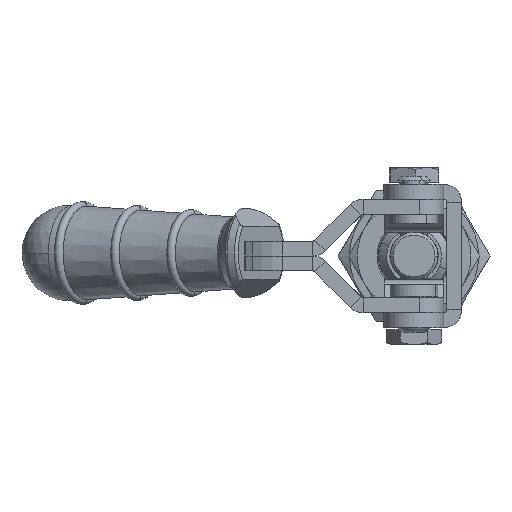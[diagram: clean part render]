
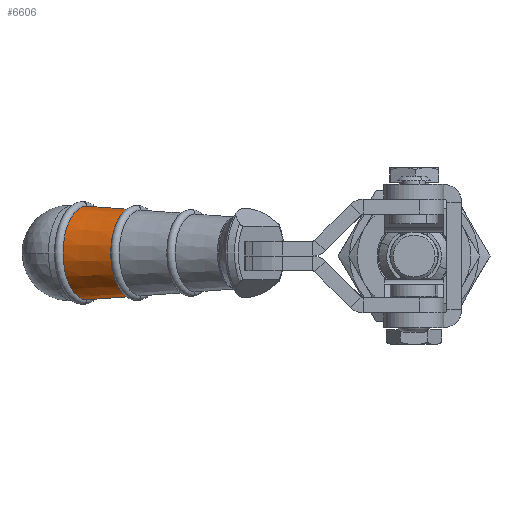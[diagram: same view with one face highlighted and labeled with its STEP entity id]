
A CAD part, left-side view. The second image highlights one B-rep face of the part: STEP entity #6606.
In plain terms, the highlighted conical face has half-angle 3.607 degrees and reference radius 7.262 mm.
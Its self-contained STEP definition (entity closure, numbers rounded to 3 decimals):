
#1537 = CARTESIAN_POINT ( 'NONE',  ( -24.769, 0., 0. ) ) ;
#2129 = ORIENTED_EDGE ( 'NONE', *, *, #18528, .T. ) ;
#2337 = EDGE_CURVE ( 'NONE', #29062, #19864, #25547, .T. ) ;
#2341 = ORIENTED_EDGE ( 'NONE', *, *, #2337, .T. ) ;
#2638 = LINE ( 'NONE', #9124, #10948 ) ;
#4075 = DIRECTION ( 'NONE',  ( 1., 0., 0. ) ) ;
#4175 = VECTOR ( 'NONE', #22161, 1000. ) ;
#4217 = LINE ( 'NONE', #15519, #4175 ) ;
#5799 = CARTESIAN_POINT ( 'NONE',  ( -24.769, 0., 0. ) ) ;
#6076 = CIRCLE ( 'NONE', #14240, 7.262 ) ;
#6278 = ORIENTED_EDGE ( 'NONE', *, *, #28636, .F. ) ;
#6606 = ADVANCED_FACE ( 'NONE', ( #10627 ), #19424, .T. ) ;
#8670 = CARTESIAN_POINT ( 'NONE',  ( -33.751, 0., 0. ) ) ;
#9124 = CARTESIAN_POINT ( 'NONE',  ( -24.769, 0., 7.262 ) ) ;
#10627 = FACE_OUTER_BOUND ( 'NONE', #26836, .T. ) ;
#10948 = VECTOR ( 'NONE', #16343, 1000. ) ;
#11005 = EDGE_CURVE ( 'NONE', #13401, #19400, #6076, .T. ) ;
#13268 = DIRECTION ( 'NONE',  ( 0., 0., -1. ) ) ;
#13401 = VERTEX_POINT ( 'NONE', #18420 ) ;
#14240 = AXIS2_PLACEMENT_3D ( 'NONE', #1537, #4075, #13268 ) ;
#14411 = CARTESIAN_POINT ( 'NONE',  ( -33.751, 0., -7.828 ) ) ;
#15519 = CARTESIAN_POINT ( 'NONE',  ( -24.769, 0., -7.262 ) ) ;
#16343 = DIRECTION ( 'NONE',  ( -0.998, 0., 0.063 ) ) ;
#17604 = CARTESIAN_POINT ( 'NONE',  ( -33.751, 0., 7.828 ) ) ;
#18420 = CARTESIAN_POINT ( 'NONE',  ( -24.769, 0., 7.262 ) ) ;
#18528 = EDGE_CURVE ( 'NONE', #13401, #29062, #2638, .T. ) ;
#19400 = VERTEX_POINT ( 'NONE', #23380 ) ;
#19424 = CONICAL_SURFACE ( 'NONE', #25670, 7.262, 0.063 ) ;
#19670 = ORIENTED_EDGE ( 'NONE', *, *, #11005, .F. ) ;
#19864 = VERTEX_POINT ( 'NONE', #14411 ) ;
#22161 = DIRECTION ( 'NONE',  ( -0.998, 0., -0.063 ) ) ;
#23380 = CARTESIAN_POINT ( 'NONE',  ( -24.769, 0., -7.262 ) ) ;
#24186 = DIRECTION ( 'NONE',  ( 0., 0., 1. ) ) ;
#25547 = CIRCLE ( 'NONE', #26988, 7.828 ) ;
#25670 = AXIS2_PLACEMENT_3D ( 'NONE', #5799, #26733, #24186 ) ;
#26733 = DIRECTION ( 'NONE',  ( -1., 0., 0. ) ) ;
#26836 = EDGE_LOOP ( 'NONE', ( #6278, #19670, #2129, #2341 ) ) ;
#26988 = AXIS2_PLACEMENT_3D ( 'NONE', #8670, #28586, #27033 ) ;
#27033 = DIRECTION ( 'NONE',  ( 0., 0., -1. ) ) ;
#28586 = DIRECTION ( 'NONE',  ( 1., 0., 0. ) ) ;
#28636 = EDGE_CURVE ( 'NONE', #19400, #19864, #4217, .T. ) ;
#29062 = VERTEX_POINT ( 'NONE', #17604 ) ;
